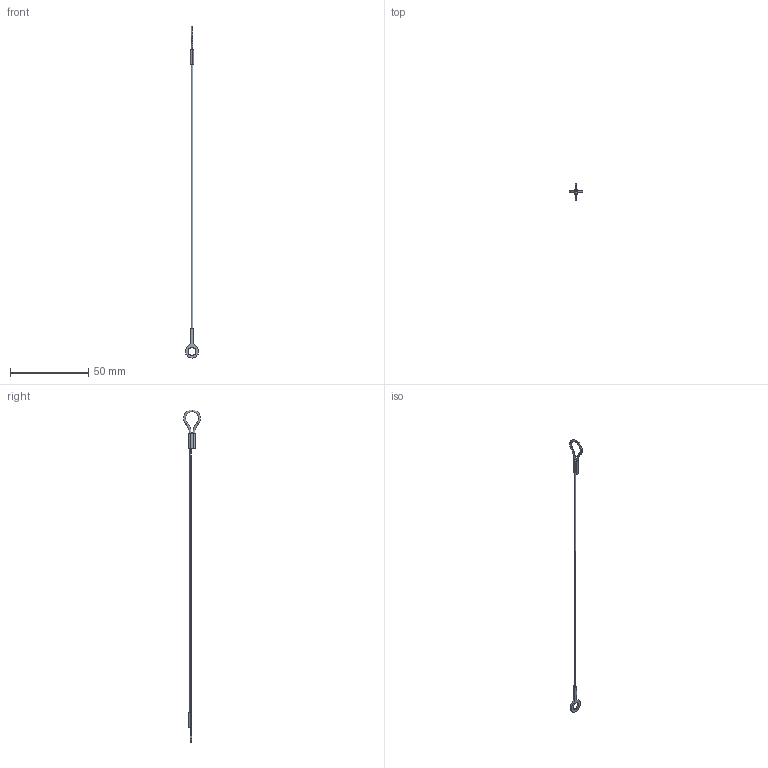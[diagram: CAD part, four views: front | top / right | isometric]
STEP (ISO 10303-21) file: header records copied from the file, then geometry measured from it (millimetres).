
FILE_DESCRIPTION (( 'STEP AP203' ), '1' );
FILE_NAME ('LA1075.I04-203N1.step', '2026-03-23T16:41:24', ( '' ), ( '' ), 'SwSTEP 2.0', 'SolidWorks 2019', '' );
FILE_SCHEMA (( 'CONFIG_CONTROL_DESIGN' ));
Length unit declared in the file: millimetre
Products named in the file (1): LA1075.I04-203N1
Bounding box: 8.36 x 10.76 x 212.78 mm (x, y, z)
Volume: 378.5 mm3; surface area: 1077.7 mm2
Topology: 1 solids, 1 shells, 30 faces, 68 edges, 42 vertices
Faces by surface type: plane 12, cylinder 10, torus 8
Entity records: 935 total; most frequent: DIRECTION 168, CARTESIAN_POINT 141, ORIENTED_EDGE 136, AXIS2_PLACEMENT_3D 69, EDGE_CURVE 68, VERTEX_POINT 42, CIRCLE 38, EDGE_LOOP 36
